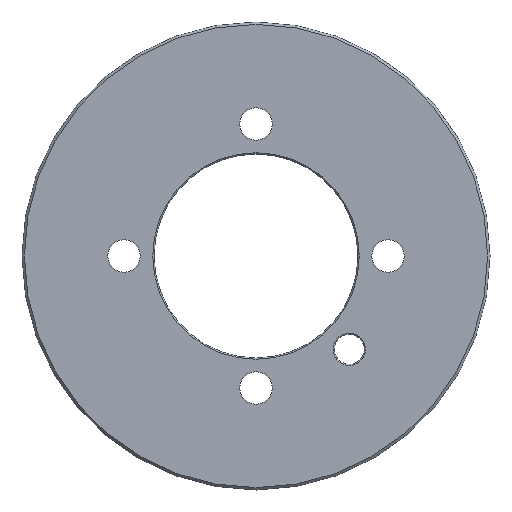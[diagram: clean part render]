
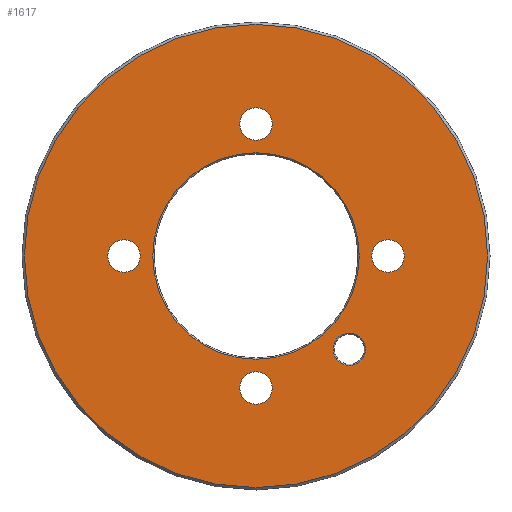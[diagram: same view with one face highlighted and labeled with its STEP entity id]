
A CAD part, front view. The second image highlights one B-rep face of the part: STEP entity #1617.
In plain terms, the highlighted planar face has unit normal (0, -1, 0).
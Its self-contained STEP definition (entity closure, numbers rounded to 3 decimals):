
#49 = EDGE_LOOP ( 'NONE', ( #1245, #1294 ) ) ;
#82 = CARTESIAN_POINT ( 'NONE',  ( 11., 0., 0. ) ) ;
#169 = AXIS2_PLACEMENT_3D ( 'NONE', #3053, #3382, #652 ) ;
#192 = FACE_BOUND ( 'NONE', #3338, .T. ) ;
#213 = VERTEX_POINT ( 'NONE', #1171 ) ;
#235 = FACE_OUTER_BOUND ( 'NONE', #49, .T. ) ;
#263 = CARTESIAN_POINT ( 'NONE',  ( 0., 0., 0. ) ) ;
#317 = EDGE_CURVE ( 'NONE', #1161, #1685, #1971, .T. ) ;
#348 = AXIS2_PLACEMENT_3D ( 'NONE', #1903, #2193, #936 ) ;
#427 = AXIS2_PLACEMENT_3D ( 'NONE', #1751, #1453, #3451 ) ;
#478 = EDGE_LOOP ( 'NONE', ( #3456, #2491 ) ) ;
#484 = CIRCLE ( 'NONE', #3537, 19.3 ) ;
#512 = DIRECTION ( 'NONE',  ( 0., 1., 0. ) ) ;
#589 = DIRECTION ( 'NONE',  ( 0., -1., 0. ) ) ;
#619 = EDGE_LOOP ( 'NONE', ( #850, #667 ) ) ;
#641 = DIRECTION ( 'NONE',  ( 0., 0., 1. ) ) ;
#652 = DIRECTION ( 'NONE',  ( 0., 0., 1. ) ) ;
#662 = AXIS2_PLACEMENT_3D ( 'NONE', #869, #3880, #3541 ) ;
#667 = ORIENTED_EDGE ( 'NONE', *, *, #1881, .T. ) ;
#797 = CARTESIAN_POINT ( 'NONE',  ( 7.778, 0., -7.778 ) ) ;
#816 = DIRECTION ( 'NONE',  ( 0., 1., 0. ) ) ;
#841 = CARTESIAN_POINT ( 'NONE',  ( 0., 0., 19.3 ) ) ;
#849 = DIRECTION ( 'NONE',  ( 0., 0., 1. ) ) ;
#850 = ORIENTED_EDGE ( 'NONE', *, *, #317, .T. ) ;
#869 = CARTESIAN_POINT ( 'NONE',  ( 0., 0., 11. ) ) ;
#893 = EDGE_CURVE ( 'NONE', #3546, #2981, #2075, .T. ) ;
#922 = AXIS2_PLACEMENT_3D ( 'NONE', #1126, #2934, #3178 ) ;
#929 = CARTESIAN_POINT ( 'NONE',  ( 0., 0., -11. ) ) ;
#936 = DIRECTION ( 'NONE',  ( 0., 0., 1. ) ) ;
#969 = CARTESIAN_POINT ( 'NONE',  ( 0., 0., 0. ) ) ;
#1100 = AXIS2_PLACEMENT_3D ( 'NONE', #82, #2529, #2547 ) ;
#1105 = DIRECTION ( 'NONE',  ( 0., 1., 0. ) ) ;
#1126 = CARTESIAN_POINT ( 'NONE',  ( -11., 0., 0. ) ) ;
#1135 = FACE_BOUND ( 'NONE', #1462, .T. ) ;
#1152 = CARTESIAN_POINT ( 'NONE',  ( 0., 0., 8.6 ) ) ;
#1161 = VERTEX_POINT ( 'NONE', #1408 ) ;
#1171 = CARTESIAN_POINT ( 'NONE',  ( 11., 0., -1.35 ) ) ;
#1198 = CARTESIAN_POINT ( 'NONE',  ( 0., 0., 0. ) ) ;
#1220 = DIRECTION ( 'NONE',  ( 0., 0., 1. ) ) ;
#1232 = DIRECTION ( 'NONE',  ( 0., 0., 1. ) ) ;
#1239 = CIRCLE ( 'NONE', #922, 1.35 ) ;
#1245 = ORIENTED_EDGE ( 'NONE', *, *, #2717, .T. ) ;
#1294 = ORIENTED_EDGE ( 'NONE', *, *, #1927, .T. ) ;
#1344 = CIRCLE ( 'NONE', #2348, 1.35 ) ;
#1364 = AXIS2_PLACEMENT_3D ( 'NONE', #263, #589, #1232 ) ;
#1408 = CARTESIAN_POINT ( 'NONE',  ( -11., 0., 1.35 ) ) ;
#1453 = DIRECTION ( 'NONE',  ( 0., 1., 0. ) ) ;
#1462 = EDGE_LOOP ( 'NONE', ( #3567, #3641 ) ) ;
#1490 = ORIENTED_EDGE ( 'NONE', *, *, #2827, .T. ) ;
#1603 = DIRECTION ( 'NONE',  ( 0., 1., 0. ) ) ;
#1605 = CIRCLE ( 'NONE', #2051, 1.35 ) ;
#1617 = ADVANCED_FACE ( 'NONE', ( #2965, #192, #235, #2651, #3883, #2628, #1135 ), #3905, .F. ) ;
#1685 = VERTEX_POINT ( 'NONE', #3385 ) ;
#1695 = CIRCLE ( 'NONE', #2208, 8.6 ) ;
#1715 = CARTESIAN_POINT ( 'NONE',  ( 0., 0., 9.65 ) ) ;
#1734 = ORIENTED_EDGE ( 'NONE', *, *, #3965, .T. ) ;
#1741 = CIRCLE ( 'NONE', #1865, 8.6 ) ;
#1745 = DIRECTION ( 'NONE',  ( 0., 0., 1. ) ) ;
#1751 = CARTESIAN_POINT ( 'NONE',  ( 11., 0., 0. ) ) ;
#1768 = AXIS2_PLACEMENT_3D ( 'NONE', #929, #2172, #3490 ) ;
#1786 = EDGE_CURVE ( 'NONE', #213, #2540, #2924, .T. ) ;
#1817 = DIRECTION ( 'NONE',  ( 0., -1., 0. ) ) ;
#1827 = CARTESIAN_POINT ( 'NONE',  ( 7.778, 0., -6.428 ) ) ;
#1838 = EDGE_CURVE ( 'NONE', #2552, #1997, #1605, .T. ) ;
#1839 = VERTEX_POINT ( 'NONE', #1152 ) ;
#1865 = AXIS2_PLACEMENT_3D ( 'NONE', #2327, #816, #2033 ) ;
#1881 = EDGE_CURVE ( 'NONE', #1685, #1161, #1239, .T. ) ;
#1888 = ORIENTED_EDGE ( 'NONE', *, *, #2470, .T. ) ;
#1903 = CARTESIAN_POINT ( 'NONE',  ( 7.778, 0., -7.778 ) ) ;
#1921 = CARTESIAN_POINT ( 'NONE',  ( 7.778, 0., -9.128 ) ) ;
#1927 = EDGE_CURVE ( 'NONE', #3944, #2812, #2551, .T. ) ;
#1971 = CIRCLE ( 'NONE', #169, 1.35 ) ;
#1997 = VERTEX_POINT ( 'NONE', #2372 ) ;
#2033 = DIRECTION ( 'NONE',  ( 0., 0., 1. ) ) ;
#2038 = DIRECTION ( 'NONE',  ( 0., 0., 1. ) ) ;
#2050 = VERTEX_POINT ( 'NONE', #1715 ) ;
#2051 = AXIS2_PLACEMENT_3D ( 'NONE', #2606, #3492, #2038 ) ;
#2075 = CIRCLE ( 'NONE', #348, 1.35 ) ;
#2155 = CARTESIAN_POINT ( 'NONE',  ( 0., 0., 12.35 ) ) ;
#2163 = CIRCLE ( 'NONE', #427, 1.35 ) ;
#2172 = DIRECTION ( 'NONE',  ( 0., 1., 0. ) ) ;
#2193 = DIRECTION ( 'NONE',  ( 0., 1., 0. ) ) ;
#2202 = DIRECTION ( 'NONE',  ( 0., 0., 1. ) ) ;
#2208 = AXIS2_PLACEMENT_3D ( 'NONE', #1198, #2943, #1220 ) ;
#2327 = CARTESIAN_POINT ( 'NONE',  ( 0., 0., 0. ) ) ;
#2348 = AXIS2_PLACEMENT_3D ( 'NONE', #797, #1105, #849 ) ;
#2369 = ORIENTED_EDGE ( 'NONE', *, *, #2558, .T. ) ;
#2371 = EDGE_CURVE ( 'NONE', #3515, #1839, #1695, .T. ) ;
#2372 = CARTESIAN_POINT ( 'NONE',  ( 0., 0., -12.35 ) ) ;
#2470 = EDGE_CURVE ( 'NONE', #2958, #2050, #3529, .T. ) ;
#2491 = ORIENTED_EDGE ( 'NONE', *, *, #893, .T. ) ;
#2529 = DIRECTION ( 'NONE',  ( 0., 1., 0. ) ) ;
#2540 = VERTEX_POINT ( 'NONE', #2903 ) ;
#2547 = DIRECTION ( 'NONE',  ( 0., 0., 1. ) ) ;
#2551 = CIRCLE ( 'NONE', #1364, 19.3 ) ;
#2552 = VERTEX_POINT ( 'NONE', #3136 ) ;
#2558 = EDGE_CURVE ( 'NONE', #2050, #2958, #2825, .T. ) ;
#2606 = CARTESIAN_POINT ( 'NONE',  ( 0., 0., -11. ) ) ;
#2628 = FACE_BOUND ( 'NONE', #619, .T. ) ;
#2651 = FACE_BOUND ( 'NONE', #3931, .T. ) ;
#2717 = EDGE_CURVE ( 'NONE', #2812, #3944, #484, .T. ) ;
#2739 = CARTESIAN_POINT ( 'NONE',  ( 0., 0., 11. ) ) ;
#2793 = EDGE_LOOP ( 'NONE', ( #1888, #2369 ) ) ;
#2812 = VERTEX_POINT ( 'NONE', #841 ) ;
#2825 = CIRCLE ( 'NONE', #662, 1.35 ) ;
#2827 = EDGE_CURVE ( 'NONE', #2540, #213, #2163, .T. ) ;
#2903 = CARTESIAN_POINT ( 'NONE',  ( 11., 0., 1.35 ) ) ;
#2924 = CIRCLE ( 'NONE', #1100, 1.35 ) ;
#2934 = DIRECTION ( 'NONE',  ( 0., 1., 0. ) ) ;
#2943 = DIRECTION ( 'NONE',  ( 0., 1., 0. ) ) ;
#2958 = VERTEX_POINT ( 'NONE', #2155 ) ;
#2965 = FACE_BOUND ( 'NONE', #478, .T. ) ;
#2981 = VERTEX_POINT ( 'NONE', #1921 ) ;
#3053 = CARTESIAN_POINT ( 'NONE',  ( -11., 0., 0. ) ) ;
#3069 = CARTESIAN_POINT ( 'NONE',  ( 0., 0., -8.6 ) ) ;
#3132 = EDGE_CURVE ( 'NONE', #2981, #3546, #1344, .T. ) ;
#3136 = CARTESIAN_POINT ( 'NONE',  ( 0., 0., -9.65 ) ) ;
#3178 = DIRECTION ( 'NONE',  ( 0., 0., 1. ) ) ;
#3190 = CARTESIAN_POINT ( 'NONE',  ( 0., 0., -19.3 ) ) ;
#3202 = AXIS2_PLACEMENT_3D ( 'NONE', #2739, #1603, #641 ) ;
#3338 = EDGE_LOOP ( 'NONE', ( #3379, #1734 ) ) ;
#3379 = ORIENTED_EDGE ( 'NONE', *, *, #2371, .T. ) ;
#3382 = DIRECTION ( 'NONE',  ( 0., 1., 0. ) ) ;
#3385 = CARTESIAN_POINT ( 'NONE',  ( -11., 0., -1.35 ) ) ;
#3451 = DIRECTION ( 'NONE',  ( 0., 0., 1. ) ) ;
#3456 = ORIENTED_EDGE ( 'NONE', *, *, #3132, .T. ) ;
#3490 = DIRECTION ( 'NONE',  ( 0., 0., 1. ) ) ;
#3492 = DIRECTION ( 'NONE',  ( 0., 1., 0. ) ) ;
#3515 = VERTEX_POINT ( 'NONE', #3069 ) ;
#3522 = CARTESIAN_POINT ( 'NONE',  ( 0., 0., 0. ) ) ;
#3529 = CIRCLE ( 'NONE', #3202, 1.35 ) ;
#3537 = AXIS2_PLACEMENT_3D ( 'NONE', #969, #1817, #2202 ) ;
#3541 = DIRECTION ( 'NONE',  ( 0., 0., 1. ) ) ;
#3546 = VERTEX_POINT ( 'NONE', #1827 ) ;
#3567 = ORIENTED_EDGE ( 'NONE', *, *, #1838, .T. ) ;
#3605 = CIRCLE ( 'NONE', #1768, 1.35 ) ;
#3630 = AXIS2_PLACEMENT_3D ( 'NONE', #3522, #512, #1745 ) ;
#3641 = ORIENTED_EDGE ( 'NONE', *, *, #3900, .T. ) ;
#3880 = DIRECTION ( 'NONE',  ( 0., 1., 0. ) ) ;
#3883 = FACE_BOUND ( 'NONE', #2793, .T. ) ;
#3900 = EDGE_CURVE ( 'NONE', #1997, #2552, #3605, .T. ) ;
#3905 = PLANE ( 'NONE',  #3630 ) ;
#3931 = EDGE_LOOP ( 'NONE', ( #1490, #3962 ) ) ;
#3944 = VERTEX_POINT ( 'NONE', #3190 ) ;
#3962 = ORIENTED_EDGE ( 'NONE', *, *, #1786, .T. ) ;
#3965 = EDGE_CURVE ( 'NONE', #1839, #3515, #1741, .T. ) ;
